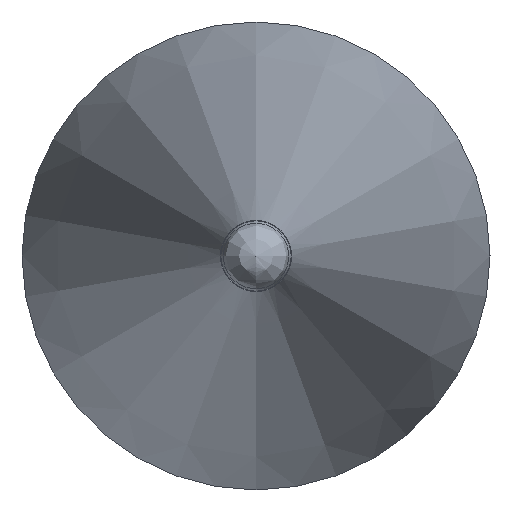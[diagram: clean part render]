
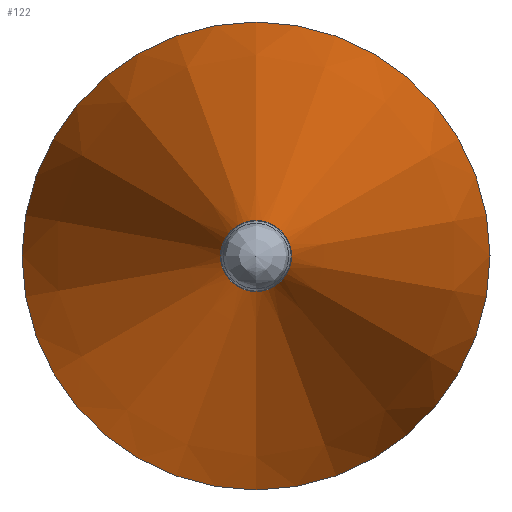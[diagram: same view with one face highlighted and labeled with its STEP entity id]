
A CAD part, left-side view. The second image highlights one B-rep face of the part: STEP entity #122.
In plain terms, the highlighted conical face has half-angle 12 degrees and reference radius 2 mm.
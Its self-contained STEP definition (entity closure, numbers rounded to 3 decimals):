
#98=CONICAL_SURFACE('',#197,2.,12.);
#107=FACE_BOUND('',#136,.T.);
#108=FACE_BOUND('',#137,.T.);
#122=ADVANCED_FACE('',(#107,#108),#98,.T.);
#136=EDGE_LOOP('',(#152));
#137=EDGE_LOOP('',(#153));
#152=ORIENTED_EDGE('',*,*,#175,.T.);
#153=ORIENTED_EDGE('',*,*,#176,.F.);
#166=VERTEX_POINT('',#249);
#167=VERTEX_POINT('',#252);
#175=EDGE_CURVE('',#166,#166,#183,.T.);
#176=EDGE_CURVE('',#167,#167,#184,.T.);
#183=CIRCLE('',#194,0.304);
#184=CIRCLE('',#196,2.);
#194=AXIS2_PLACEMENT_3D('',#248,#217,#218);
#196=AXIS2_PLACEMENT_3D('',#251,#221,#222);
#197=AXIS2_PLACEMENT_3D('',#253,#223,#224);
#217=DIRECTION('',(1.,0.,0.));
#218=DIRECTION('',(0.,0.,-1.));
#221=DIRECTION('',(1.,0.,0.));
#222=DIRECTION('',(0.,0.,-1.));
#223=DIRECTION('',(1.,0.,0.));
#224=DIRECTION('',(0.,0.,-1.));
#248=CARTESIAN_POINT('',(7897.912,6103.288,0.));
#249=CARTESIAN_POINT('',(7897.912,6103.288,-0.304));
#251=CARTESIAN_POINT('',(7905.892,6103.288,0.));
#252=CARTESIAN_POINT('',(7905.892,6103.288,-2.));
#253=CARTESIAN_POINT('',(7905.892,6103.288,0.));
